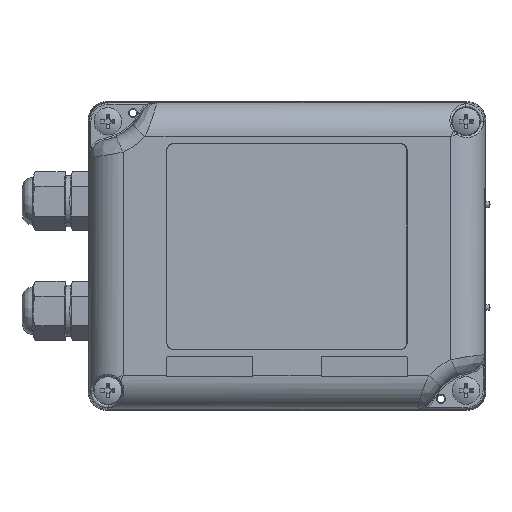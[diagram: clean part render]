
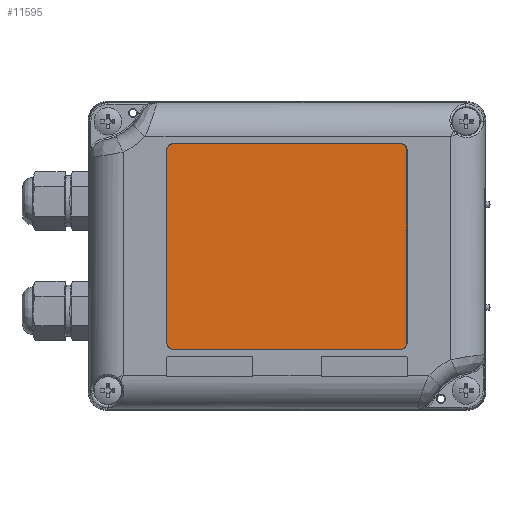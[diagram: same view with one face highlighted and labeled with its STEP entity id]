
A CAD part, top view. The second image highlights one B-rep face of the part: STEP entity #11595.
In plain terms, the highlighted planar face has unit normal (0, 0, 1).
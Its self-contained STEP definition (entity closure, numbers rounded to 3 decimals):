
#11595=ADVANCED_FACE('',(#32405),#32407,.T.);
#32405=FACE_BOUND('',#32406,.T.);
#32406=EDGE_LOOP('',(#37633,#37634,#37635,#37636,#37637,#37638,#37639,#37640));
#32407=PLANE('',#32408);
#32408=AXIS2_PLACEMENT_3D('',#32409,#32410,#32411);
#32409=CARTESIAN_POINT('',(-0.041,2.709,122.572));
#32410=DIRECTION('',(0.,0.,1.));
#32411=DIRECTION('',(-1.,0.,0.));
#37633=ORIENTED_EDGE('',*,*,#40266,.F.);
#37634=ORIENTED_EDGE('',*,*,#40265,.T.);
#37635=ORIENTED_EDGE('',*,*,#40267,.F.);
#37636=ORIENTED_EDGE('',*,*,#40253,.T.);
#37637=ORIENTED_EDGE('',*,*,#40268,.F.);
#37638=ORIENTED_EDGE('',*,*,#40255,.T.);
#37639=ORIENTED_EDGE('',*,*,#40269,.F.);
#37640=ORIENTED_EDGE('',*,*,#40259,.T.);
#40253=EDGE_CURVE('',#44611,#44615,#44617,.T.);
#40255=EDGE_CURVE('',#44621,#44619,#44622,.T.);
#40259=EDGE_CURVE('',#44629,#44627,#44630,.T.);
#40265=EDGE_CURVE('',#44635,#44639,#44641,.T.);
#40266=EDGE_CURVE('',#44635,#44627,#44642,.F.);
#40267=EDGE_CURVE('',#44611,#44639,#44643,.F.);
#40268=EDGE_CURVE('',#44621,#44615,#44644,.F.);
#40269=EDGE_CURVE('',#44629,#44619,#44645,.F.);
#44611=VERTEX_POINT('',#101074);
#44615=VERTEX_POINT('',#101082);
#44617=LINE('',#101086,#101087);
#44619=VERTEX_POINT('',#101090);
#44621=VERTEX_POINT('',#101094);
#44622=LINE('',#101095,#101096);
#44627=VERTEX_POINT('',#101106);
#44629=VERTEX_POINT('',#101110);
#44630=LINE('',#101111,#101112);
#44635=VERTEX_POINT('',#101122);
#44639=VERTEX_POINT('',#101130);
#44641=LINE('',#101134,#101135);
#44642=CIRCLE('',#101137,2.);
#44643=CIRCLE('',#101141,2.);
#44644=CIRCLE('',#101145,2.);
#44645=CIRCLE('',#101149,2.);
#101074=CARTESIAN_POINT('',(-35.041,30.709,122.572));
#101082=CARTESIAN_POINT('',(-35.041,-25.291,122.572));
#101086=CARTESIAN_POINT('',(-35.041,30.709,122.572));
#101087=VECTOR('',#101088,1.);
#101088=DIRECTION('',(0.,-1.,0.));
#101090=CARTESIAN_POINT('',(32.959,-27.291,122.572));
#101094=CARTESIAN_POINT('',(-33.041,-27.291,122.572));
#101095=CARTESIAN_POINT('',(-33.041,-27.291,122.572));
#101096=VECTOR('',#101097,1.);
#101097=DIRECTION('',(1.,0.,0.));
#101106=CARTESIAN_POINT('',(34.959,30.709,122.572));
#101110=CARTESIAN_POINT('',(34.959,-25.291,122.572));
#101111=CARTESIAN_POINT('',(34.959,-25.291,122.572));
#101112=VECTOR('',#101113,1.);
#101113=DIRECTION('',(0.,1.,0.));
#101122=CARTESIAN_POINT('',(32.959,32.709,122.572));
#101130=CARTESIAN_POINT('',(-33.041,32.709,122.572));
#101134=CARTESIAN_POINT('',(32.959,32.709,122.572));
#101135=VECTOR('',#101136,1.);
#101136=DIRECTION('',(-1.,0.,0.));
#101137=AXIS2_PLACEMENT_3D('',#101138,#101139,#101140);
#101138=CARTESIAN_POINT('',(32.959,30.709,122.572));
#101139=DIRECTION('',(0.,0.,1.));
#101140=DIRECTION('',(1.,0.,0.));
#101141=AXIS2_PLACEMENT_3D('',#101142,#101143,#101144);
#101142=CARTESIAN_POINT('',(-33.041,30.709,122.572));
#101143=DIRECTION('',(0.,0.,1.));
#101144=DIRECTION('',(0.,1.,0.));
#101145=AXIS2_PLACEMENT_3D('',#101146,#101147,#101148);
#101146=CARTESIAN_POINT('',(-33.041,-25.291,122.572));
#101147=DIRECTION('',(0.,0.,1.));
#101148=DIRECTION('',(-1.,0.,0.));
#101149=AXIS2_PLACEMENT_3D('',#101150,#101151,#101152);
#101150=CARTESIAN_POINT('',(32.959,-25.291,122.572));
#101151=DIRECTION('',(0.,0.,1.));
#101152=DIRECTION('',(0.,-1.,0.));
